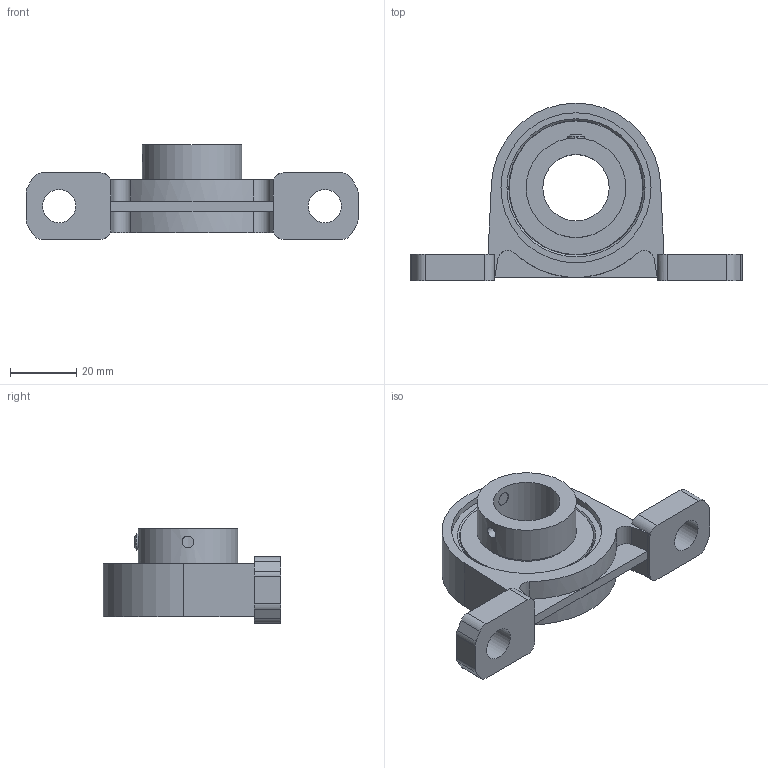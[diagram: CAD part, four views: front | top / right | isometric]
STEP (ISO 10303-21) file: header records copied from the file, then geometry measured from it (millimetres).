
FILE_DESCRIPTION((''),'2;1');
FILE_NAME('\\Ts-tgl068\J-Cad-D-BASE\00.3DCADデータ作成フォルダ\11.エコシリーズ\MUSP000\MUSP004.stp','2014-11-12T09:19:25',('btec_1106_2'),(''),'Autodesk Inventor 2012','Autodesk Inventor 2012','');
FILE_SCHEMA(('AUTOMOTIVE_DESIGN { 1 0 10303 214 1 1 1 1 }'));
Length unit declared in the file: millimetre
Products named in the file (3): MUSP000; SP004; U004
Assembly tree (2 placements, depth 2):
  MUSP000
    SP004
    U004
Bounding box: 100 x 53.5 x 28.5 mm (x, y, z)
Volume: 37319.6 mm3; surface area: 16956.2 mm2
Topology: 2 solids, 2 shells, 79 faces, 202 edges, 132 vertices
Faces by surface type: plane 44, cylinder 30, cone 3, sphere 2
Full cylindrical faces by diameter (mm): 3.5 x1, 5 x1, 10 x2, 20 x1, 27 x1, 30 x1, 45.2 x2
Entity records: 2490 total; most frequent: CARTESIAN_POINT 524, DIRECTION 410, ORIENTED_EDGE 360, EDGE_CURVE 180, AXIS2_PLACEMENT_3D 152, VERTEX_POINT 126, EDGE_LOOP 110, VECTOR 106
